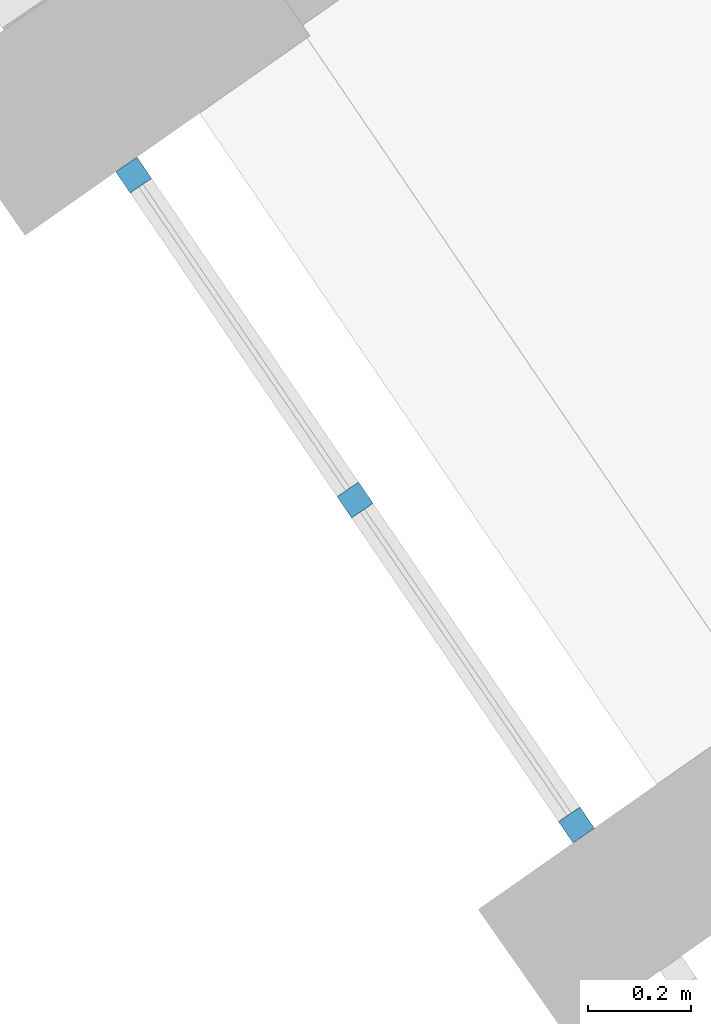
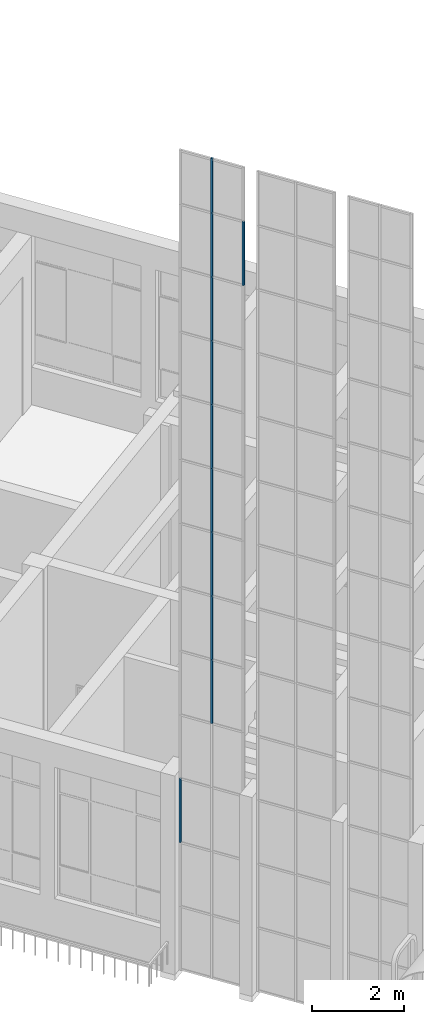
# One storey, part 18 of 157: 11 members, 1 element without a shape of its own.
"""IFC2X3 building model written with IfcOpenShell, lengths in millimetres."""

import ifcopenshell
import ifcopenshell.guid

model = None  # the IFC model being written
_history = None  # IfcOwnerHistory: only IFC2X3 demands one
_inside = {}  # id of a spatial element -> (the spatial element, [elements in it])
_under = {}  # id of a project, library or spatial element -> (it, [spatial elements below it])
_declared = {}  # id of a project -> (the project, [libraries it declares])
_typed = {}  # id of a type object -> (the type object, [elements of that type])
_made_of = {}  # id of a material, layer set ... -> (it, [elements and type objects made of it])


def new_model(schema):
    """Start an empty IFC model of exactly this schema.

    Asked for "IFC4X3", IfcOpenShell would pick the latest addendum, in which some entities
    have other attributes; the version numbers below select the first issue.
    IFC2X3 requires an IfcOwnerHistory on every rooted entity: one is made here for all.
    """
    global model, _history
    if schema == "IFC4X3":
        model = ifcopenshell.file(schema_version=(4, 3, 0, 0))
    else:
        model = ifcopenshell.file(schema=schema)
    _inside.clear()
    _under.clear()
    _declared.clear()
    _typed.clear()
    _made_of.clear()
    _history = None
    if model.schema == "IFC2X3":
        org = make("IfcOrganization", Name="unknown")
        user = make(
            "IfcPersonAndOrganization",
            ThePerson=make("IfcPerson", FamilyName="unknown"),
            TheOrganization=org,
        )
        app = make(
            "IfcApplication",
            ApplicationDeveloper=org,
            Version="unknown",
            ApplicationFullName="unknown",
            ApplicationIdentifier="unknown",
        )
        _history = make(
            "IfcOwnerHistory",
            OwningUser=user,
            OwningApplication=app,
            ChangeAction="ADDED",
            CreationDate=0,
        )
    return model


def make(cls, **values):
    """One entity of the class cls with the attributes given. An attribute that is None is left unset."""
    return model.create_entity(
        cls, **{name: value for name, value in values.items() if value is not None}
    )


def entity(cls, *values):
    """Any entity or typed value of the class cls, its attributes in the order of the schema. None: left unset."""
    e = model.create_entity(cls)
    for i, value in enumerate(values):
        if value is not None:
            e[i] = value
    return e


def rooted(cls, **values):
    """An entity with a GlobalId (a new one), such as an element, a storey or a relation."""
    return make(cls, GlobalId=ifcopenshell.guid.new(), OwnerHistory=_history, **values)


def si_unit(unit_type, name, prefix=None):
    """IfcSIUnit, for example si_unit("LENGTHUNIT", "METRE", prefix="MILLI")."""
    return make("IfcSIUnit", UnitType=unit_type, Prefix=prefix, Name=name)


def converted_unit(unit_type, name, factor, base, dimensions=None, offset=None):
    """IfcConversionBasedUnit, such as the inch: factor (a typed value) times the base unit."""
    return make(
        "IfcConversionBasedUnit"
        if offset is None
        else "IfcConversionBasedUnitWithOffset",
        ConversionOffset=offset,
        Dimensions=None
        if dimensions is None
        else entity("IfcDimensionalExponents", *dimensions),
        UnitType=unit_type,
        Name=name,
        ConversionFactor=make(
            "IfcMeasureWithUnit", ValueComponent=factor, UnitComponent=base
        ),
    )


def derived_unit(unit_type, elements):
    """IfcDerivedUnit: a product of units, each with its exponent."""
    return make(
        "IfcDerivedUnit",
        Elements=[
            make("IfcDerivedUnitElement", Unit=unit, Exponent=power)
            for unit, power in elements
        ],
        UnitType=unit_type,
    )


def assignment(units):
    """IfcUnitAssignment: the units of a project."""
    return None if units is None else make("IfcUnitAssignment", Units=units)


def point(xyz):
    """IfcCartesianPoint."""
    return None if xyz is None else make("IfcCartesianPoint", Coordinates=xyz)


def direction(xyz):
    """IfcDirection."""
    return None if xyz is None else make("IfcDirection", DirectionRatios=xyz)


def frame(location, z_axis=None, x_axis=None):
    """IfcAxis2Placement3D, a coordinate frame: its origin and axes. An axis left out is left unset."""
    return make(
        "IfcAxis2Placement3D",
        Location=point(location),
        Axis=direction(z_axis),
        RefDirection=direction(x_axis),
    )


def frame_2d(location, x_axis=None):
    """IfcAxis2Placement2D, a coordinate frame in the plane: its origin and x axis."""
    return make(
        "IfcAxis2Placement2D", Location=point(location), RefDirection=direction(x_axis)
    )


def origin():
    """The frame at (0, 0, 0) with its axes left unset."""
    return frame((0.0, 0.0, 0.0))


def origin_2d_with_axis():
    """The frame at (0, 0) in the plane with the x axis (1, 0) written out."""
    return frame_2d((0.0, 0.0), x_axis=(1.0, 0.0))


def place(relative_to, where):
    """IfcLocalPlacement: puts the frame where relative to a parent placement (None: the world)."""
    return make(
        "IfcLocalPlacement", PlacementRelTo=relative_to, RelativePlacement=where
    )


def context(
    kind, dimensions, precision=None, world=None, true_north=None, identifier=None
):
    """IfcGeometricRepresentationContext, for example the 3D "Model" context."""
    return make(
        "IfcGeometricRepresentationContext",
        ContextIdentifier=identifier,
        ContextType=kind,
        CoordinateSpaceDimension=dimensions,
        Precision=precision,
        WorldCoordinateSystem=world,
        TrueNorth=true_north,
    )


def subcontext(parent, identifier, kind, view, scale=None):
    """IfcGeometricRepresentationSubContext, for example "Body" below "Model"."""
    return make(
        "IfcGeometricRepresentationSubContext",
        ContextIdentifier=identifier,
        ContextType=kind,
        ParentContext=parent,
        TargetScale=scale,
        TargetView=view,
    )


def project(units=None, contexts=None):
    """IfcProject with its units and contexts."""
    return rooted(
        "IfcProject",
        Name="project",
        RepresentationContexts=contexts,
        UnitsInContext=assignment(units),
    )


def spatial(cls, under=None, at=None, **own):
    """A site, building, storey or space (cls), placed at a placement, below another one or the project."""
    s = rooted(cls, ObjectPlacement=at, **own)
    if under is not None:
        _under.setdefault(under.id(), (under, []))[1].append(s)
    return s


def profile(cls, at=None, kind="AREA", **sizes):
    """A parametric profile (cls). Its sizes go by their IFC names, for example OverallWidth=200.0."""
    return make(cls, ProfileType=kind, Position=at, **sizes)


def rectangle(**sizes):
    """IfcRectangleProfileDef."""
    return profile("IfcRectangleProfileDef", **sizes)


def extrude(swept, where, along, depth):
    """IfcExtrudedAreaSolid: the profile swept, set in the frame where, extruded along a direction by depth."""
    return make(
        "IfcExtrudedAreaSolid",
        SweptArea=swept,
        Position=where,
        ExtrudedDirection=direction(along),
        Depth=depth,
    )


def shape(context_of_items, identifier, shape_type, items):
    """IfcShapeRepresentation: the items that make up one representation, for example the "Body"."""
    return make(
        "IfcShapeRepresentation",
        ContextOfItems=context_of_items,
        RepresentationIdentifier=identifier,
        RepresentationType=shape_type,
        Items=items,
    )


def source(mapping_origin, context_of_items, identifier, shape_type, items):
    """IfcRepresentationMap: a shape defined once, which mapped items show again and again."""
    return make(
        "IfcRepresentationMap",
        MappingOrigin=mapping_origin,
        MappedRepresentation=shape(context_of_items, identifier, shape_type, items),
    )


def transform(
    local_origin,
    x_axis=None,
    y_axis=None,
    z_axis=None,
    scale=None,
    scale2=None,
    scale3=None,
    uniform=True,
):
    """IfcCartesianTransformationOperator3D, or its non-uniform kind. x_axis, y_axis, z_axis: its Axis1, 2, 3."""
    if uniform:
        return make(
            "IfcCartesianTransformationOperator3D",
            Axis1=direction(x_axis),
            Axis2=direction(y_axis),
            LocalOrigin=point(local_origin),
            Scale=scale,
            Axis3=direction(z_axis),
        )
    return make(
        "IfcCartesianTransformationOperator3DnonUniform",
        Axis1=direction(x_axis),
        Axis2=direction(y_axis),
        LocalOrigin=point(local_origin),
        Scale=scale,
        Axis3=direction(z_axis),
        Scale2=scale2,
        Scale3=scale3,
    )


def mapped(mapping_source, mapping_target):
    """IfcMappedItem: shows the shape of a source again, moved by a transform."""
    return make(
        "IfcMappedItem", MappingSource=mapping_source, MappingTarget=mapping_target
    )


def material(Name=None, Category=None):
    """IfcMaterial."""
    return make("IfcMaterial", Name=Name, Category=Category)


def made_of(thing, what):
    """Note that an element or type object is made of a material, layer set ...; save() writes the relation."""
    if what is not None:
        _made_of.setdefault(what.id(), (what, []))[1].append(thing)
    return thing


def type_object(cls, material=None, **own):
    """A type object (cls), such as IfcWallType, which elements share."""
    return made_of(rooted(cls, **own), material)


def type_shapes(of_type, sources):
    """Give a type object the sources (RepresentationMaps) that its elements show as mapped items."""
    of_type.RepresentationMaps = sources


def element(
    cls,
    number,
    at=None,
    inside=None,
    cuts=None,
    type_object=None,
    material=None,
    context=None,
    identifier="Body",
    shape_type=None,
    held_by="IfcProductDefinitionShape",
    body=None,
    shapes=None,
    **own,
):
    """One element of the class cls, such as IfcWall. Its Tag is "e" and its number.

    at: its placement. inside: the storey or other place that contains it. cuts: it is an
    opening in that element (IfcRelVoidsElement). A single representation is given by context,
    identifier, shape_type and body (its items); several are given by shapes. held_by: the class
    of the entity that holds the representations. save() writes the other relations.
    """
    e = rooted(cls, Tag="e%d" % number, ObjectPlacement=at, **own)
    if body is not None:
        shapes = [shape(context, identifier, shape_type, body)]
    if shapes is not None:
        e.Representation = make(held_by, Representations=shapes)
    if inside is not None:
        _inside.setdefault(inside.id(), (inside, []))[1].append(e)
    if cuts is not None:
        rooted(
            "IfcRelVoidsElement", RelatingBuildingElement=cuts, RelatedOpeningElement=e
        )
    if type_object is not None:
        _typed.setdefault(type_object.id(), (type_object, []))[1].append(e)
    return made_of(e, material)


def aggregate(whole, parts):
    """IfcRelAggregates: a whole, such as a stair, and the parts it consists of."""
    return rooted("IfcRelAggregates", RelatingObject=whole, RelatedObjects=parts)


def save(model, path):
    """Write the relations noted so far, then the file.

    IfcRelAggregates (storeys below a building ...), IfcRelContainedInSpatialStructure (elements
    in a storey), IfcRelDefinesByType, IfcRelAssociatesMaterial and IfcRelDeclares: one each for
    every whole, place, type object, material and project.
    """
    for whole, parts in _under.values():
        aggregate(whole, parts)
    for where, things in _inside.values():
        rooted(
            "IfcRelContainedInSpatialStructure",
            RelatedElements=things,
            RelatingStructure=where,
        )
    for kind, things in _typed.values():
        rooted("IfcRelDefinesByType", RelatedObjects=things, RelatingType=kind)
    for what, things in _made_of.values():
        rooted("IfcRelAssociatesMaterial", RelatedObjects=things, RelatingMaterial=what)
    for by, libraries in _declared.values():
        rooted("IfcRelDeclares", RelatingContext=by, RelatedDefinitions=libraries)
    model.write(path)


model = new_model("IFC2X3")

# Units and contexts
model_context = context("Model", 3, precision=0.01, world=origin(), true_north=direction((6.123031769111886e-17, 1.0)))
body_context = subcontext(model_context, "Body", "Model", "MODEL_VIEW")
ifc_project = project(units=[si_unit("LENGTHUNIT", "METRE", prefix="MILLI"), si_unit("AREAUNIT", "SQUARE_METRE"), si_unit("VOLUMEUNIT", "CUBIC_METRE"), converted_unit("PLANEANGLEUNIT", "DEGREE", entity("IfcRatioMeasure", 0.017453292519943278), si_unit("PLANEANGLEUNIT", "RADIAN"), dimensions=[0, 0, 0, 0, 0, 0, 0]), si_unit("MASSUNIT", "GRAM", prefix="KILO"), derived_unit("MASSDENSITYUNIT", [(si_unit("MASSUNIT", "GRAM", prefix="KILO"), 1), (si_unit("LENGTHUNIT", "METRE"), -3)]), derived_unit("MOMENTOFINERTIAUNIT", [(si_unit("LENGTHUNIT", "METRE"), 4)]), si_unit("TIMEUNIT", "SECOND"), si_unit("FREQUENCYUNIT", "HERTZ"), si_unit("THERMODYNAMICTEMPERATUREUNIT", "DEGREE_CELSIUS"), derived_unit("THERMALTRANSMITTANCEUNIT", [(si_unit("MASSUNIT", "GRAM", prefix="KILO"), 1), (si_unit("THERMODYNAMICTEMPERATUREUNIT", "KELVIN"), -1), (si_unit("TIMEUNIT", "SECOND"), -3)]), derived_unit("THERMALCONDUCTANCEUNIT", [(si_unit("MASSUNIT", "GRAM", prefix="KILO"), 1), (si_unit("LENGTHUNIT", "METRE"), 1), (si_unit("THERMODYNAMICTEMPERATUREUNIT", "KELVIN"), -1), (si_unit("TIMEUNIT", "SECOND"), -3)]), derived_unit("VOLUMETRICFLOWRATEUNIT", [(si_unit("LENGTHUNIT", "METRE"), 3), (si_unit("TIMEUNIT", "SECOND"), -1)]), derived_unit("MASSFLOWRATEUNIT", [(si_unit("MASSUNIT", "GRAM", prefix="KILO"), 1), (si_unit("TIMEUNIT", "SECOND"), -1)]), derived_unit("ROTATIONALFREQUENCYUNIT", [(si_unit("TIMEUNIT", "SECOND"), -1)]), si_unit("ELECTRICCURRENTUNIT", "AMPERE"), si_unit("ELECTRICVOLTAGEUNIT", "VOLT"), si_unit("POWERUNIT", "WATT"), converted_unit("FORCEUNIT", "KIP", entity("IfcRatioMeasure", 2.088543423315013e-05), si_unit("FORCEUNIT", "NEWTON"), dimensions=[1, 1, -2, 0, 0, 0, 0]), si_unit("ILLUMINANCEUNIT", "LUX"), si_unit("LUMINOUSFLUXUNIT", "LUMEN"), si_unit("LUMINOUSINTENSITYUNIT", "CANDELA"), derived_unit("USERDEFINED", [(si_unit("MASSUNIT", "GRAM", prefix="KILO"), -1), (si_unit("LENGTHUNIT", "METRE"), -2), (si_unit("TIMEUNIT", "SECOND"), 3), (si_unit("LUMINOUSFLUXUNIT", "LUMEN"), 1)]), derived_unit("USERDEFINED", [(si_unit("MASSUNIT", "GRAM", prefix="KILO"), 1), (si_unit("LENGTHUNIT", "METRE"), 3), (si_unit("TIMEUNIT", "SECOND"), -3), (si_unit("ELECTRICCURRENTUNIT", "AMPERE"), -2)]), derived_unit("USERDEFINED", [(si_unit("LENGTHUNIT", "METRE"), 2), (si_unit("TIMEUNIT", "SECOND"), -2)]), derived_unit("SOUNDPOWERUNIT", [(si_unit("MASSUNIT", "GRAM", prefix="KILO"), 1), (si_unit("LENGTHUNIT", "METRE"), 2), (si_unit("TIMEUNIT", "SECOND"), -3)]), derived_unit("SOUNDPRESSUREUNIT", [(si_unit("MASSUNIT", "GRAM", prefix="KILO"), 1), (si_unit("LENGTHUNIT", "METRE"), -1), (si_unit("TIMEUNIT", "SECOND"), -2)]), derived_unit("LINEARVELOCITYUNIT", [(si_unit("LENGTHUNIT", "METRE"), 1), (si_unit("TIMEUNIT", "SECOND"), -1)]), si_unit("PRESSUREUNIT", "PASCAL"), derived_unit("USERDEFINED", [(si_unit("LENGTHUNIT", "METRE"), -2), (si_unit("MASSUNIT", "GRAM", prefix="KILO"), 1), (si_unit("TIMEUNIT", "SECOND"), -2)]), derived_unit("LINEARFORCEUNIT", [(si_unit("MASSUNIT", "GRAM", prefix="KILO"), 1), (si_unit("LENGTHUNIT", "METRE"), 1), (si_unit("TIMEUNIT", "SECOND"), -2), (si_unit("LENGTHUNIT", "METRE"), -1)]), derived_unit("PLANARFORCEUNIT", [(si_unit("MASSUNIT", "GRAM", prefix="KILO"), 1), (si_unit("LENGTHUNIT", "METRE"), 1), (si_unit("TIMEUNIT", "SECOND"), -2), (si_unit("LENGTHUNIT", "METRE"), -2)]), derived_unit("SPECIFICHEATCAPACITYUNIT", [(si_unit("LENGTHUNIT", "METRE"), 2), (si_unit("TIMEUNIT", "SECOND"), -2), (si_unit("THERMODYNAMICTEMPERATUREUNIT", "KELVIN"), -1)]), derived_unit("VAPORPERMEABILITYUNIT", [(si_unit("TIMEUNIT", "SECOND"), 1), (si_unit("LENGTHUNIT", "METRE"), -1)]), derived_unit("DYNAMICVISCOSITYUNIT", [(si_unit("MASSUNIT", "GRAM", prefix="KILO"), 1), (si_unit("LENGTHUNIT", "METRE"), -1), (si_unit("TIMEUNIT", "SECOND"), -1)]), derived_unit("THERMALEXPANSIONCOEFFICIENTUNIT", [(si_unit("THERMODYNAMICTEMPERATUREUNIT", "KELVIN"), -1)])], contexts=[model_context])

# Site, building, storey
site_placement = place(None, frame((0.0, 0.0, 0.0), z_axis=(0.0, 0.0, 1.0), x_axis=(0.8191520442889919, 0.5735764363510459, 0.0)))
site = spatial("IfcSite", under=ifc_project, at=site_placement, Name="Default", CompositionType="ELEMENT")
building_placement = place(site_placement, origin())
building = spatial("IfcBuilding", under=site, at=building_placement, CompositionType="ELEMENT")
storey_placement = place(building_placement, origin())
storey = spatial("IfcBuildingStorey", under=building, at=storey_placement, Name="1.EG +0.00", CompositionType="ELEMENT", Elevation=-4.331468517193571e-12)

# Curtain wall, members
curtain_wall_type = type_object("IfcCurtainWallType", Name="Curtain Wall:Curtain_Wall_CJC", PredefinedType="NOTDEFINED")
curtain_wall_placement = place(storey_placement, origin())
curtain_wall = element("IfcCurtainWall", 1, at=curtain_wall_placement, inside=storey, type_object=curtain_wall_type, Name="Curtain Wall:Curtain_Wall_CJC", ObjectType="Curtain Wall:Curtain_Wall_CJC")
ifc_material = material(Name="Aluminium")
member_type_1 = type_object("IfcMemberType", Name="Rectangular Mullion:5x5", PredefinedType="MULLION", material=ifc_material)
shared_shape_1 = source(origin(), body_context, "Body", "SweptSolid", [
    extrude(rectangle(XDim=50.0, YDim=50.0, at=origin_2d_with_axis()), frame((-25.0, 0.0, -1700.0), z_axis=(0.0, 0.0, 1.0), x_axis=(0.0, -1.0, 0.0)), (0.0, 0.0, 1.0), 1700.0000000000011),
])
type_shapes(member_type_1, [shared_shape_1])
member_1_placement = place(curtain_wall_placement, frame((-223070.5851543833, 113945.23194626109, 20400.0), z_axis=(0.0, 0.0, 1.0), x_axis=(-0.01272958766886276, -0.999918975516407, 0.0)))
member_1 = element("IfcMember", 2, at=member_1_placement, type_object=member_type_1, material=ifc_material, Name="Rectangular Mullion:5x5", ObjectType="Rectangular Mullion:5x5", context=body_context, shape_type="MappedRepresentation", body=[
    mapped(shared_shape_1, transform((0.0, 0.0, 0.0), scale=1.0)),
])
member_type_2 = type_object("IfcMemberType", Name="Rectangular Mullion:5x5", PredefinedType="MULLION", material=ifc_material)
shared_shape_2 = source(origin(), body_context, "Body", "SweptSolid", [
    extrude(rectangle(XDim=50.0, YDim=50.0, at=origin_2d_with_axis()), frame((-25.0, 0.0, -1700.0), z_axis=(0.0, 0.0, 1.0), x_axis=(0.0, -1.0, 0.0)), (0.0, 0.0, 1.0), 1700.0),
])
type_shapes(member_type_2, [shared_shape_2])
member_2_placement = place(curtain_wall_placement, frame((-223050.52008220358, 115521.3589143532, 3400.0), z_axis=(0.0, 0.0, -1.0), x_axis=(0.01272958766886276, 0.999918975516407, 0.0)))
member_2 = element("IfcMember", 3, at=member_2_placement, type_object=member_type_2, material=ifc_material, Name="Rectangular Mullion:5x5", ObjectType="Rectangular Mullion:5x5", context=body_context, shape_type="MappedRepresentation", body=[
    mapped(shared_shape_2, transform((0.0, 0.0, 0.0), scale=1.0)),
])
member_type_3 = type_object("IfcMemberType", Name="Rectangular Mullion:5x5", PredefinedType="MULLION", material=ifc_material)
shared_shape_3 = source(origin(), body_context, "Body", "SweptSolid", [
    extrude(rectangle(XDim=50.0, YDim=50.0, at=origin_2d_with_axis()), frame((0.0, 0.0, -1700.0), z_axis=(0.0, 0.0, 1.0), x_axis=(0.0, -1.0, 0.0)), (0.0, 0.0, 1.0), 1700.0),
])
type_shapes(member_type_3, [shared_shape_3])
member_3_placement = place(curtain_wall_placement, frame((-223060.55261829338, 114733.29543030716, 6800.0), z_axis=(0.0, 0.0, -1.0), x_axis=(0.01272958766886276, 0.999918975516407, 0.0)))
member_3 = element("IfcMember", 4, at=member_3_placement, type_object=member_type_3, material=ifc_material, Name="Rectangular Mullion:5x5", ObjectType="Rectangular Mullion:5x5", context=body_context, shape_type="MappedRepresentation", body=[
    mapped(shared_shape_3, transform((0.0, 0.0, 0.0), scale=1.0)),
])
member_4_placement = place(curtain_wall_placement, frame((-223060.55261829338, 114733.29543030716, 8500.0), z_axis=(0.0, 0.0, -1.0), x_axis=(0.01272958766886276, 0.999918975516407, 0.0)))
member_4 = element("IfcMember", 5, at=member_4_placement, type_object=member_type_3, material=ifc_material, Name="Rectangular Mullion:5x5", ObjectType="Rectangular Mullion:5x5", context=body_context, shape_type="MappedRepresentation", body=[
    mapped(shared_shape_3, transform((0.0, 0.0, 0.0), scale=1.0)),
])
member_5_placement = place(curtain_wall_placement, frame((-223060.55261829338, 114733.29543030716, 10200.0), z_axis=(0.0, 0.0, -1.0), x_axis=(0.01272958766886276, 0.999918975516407, 0.0)))
member_5 = element("IfcMember", 6, at=member_5_placement, type_object=member_type_3, material=ifc_material, Name="Rectangular Mullion:5x5", ObjectType="Rectangular Mullion:5x5", context=body_context, shape_type="MappedRepresentation", body=[
    mapped(shared_shape_3, transform((0.0, 0.0, 0.0), scale=1.0)),
])
member_6_placement = place(curtain_wall_placement, frame((-223060.55261829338, 114733.29543030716, 11900.0), z_axis=(0.0, 0.0, -1.0), x_axis=(0.01272958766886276, 0.999918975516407, 0.0)))
member_6 = element("IfcMember", 7, at=member_6_placement, type_object=member_type_3, material=ifc_material, Name="Rectangular Mullion:5x5", ObjectType="Rectangular Mullion:5x5", context=body_context, shape_type="MappedRepresentation", body=[
    mapped(shared_shape_3, transform((0.0, 0.0, 0.0), scale=1.0)),
])
member_7_placement = place(curtain_wall_placement, frame((-223060.55261829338, 114733.29543030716, 13600.0), z_axis=(0.0, 0.0, -1.0), x_axis=(0.01272958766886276, 0.999918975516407, 0.0)))
member_7 = element("IfcMember", 8, at=member_7_placement, type_object=member_type_3, material=ifc_material, Name="Rectangular Mullion:5x5", ObjectType="Rectangular Mullion:5x5", context=body_context, shape_type="MappedRepresentation", body=[
    mapped(shared_shape_3, transform((0.0, 0.0, 0.0), scale=1.0)),
])
member_8_placement = place(curtain_wall_placement, frame((-223060.55261829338, 114733.29543030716, 15300.0), z_axis=(0.0, 0.0, -1.0), x_axis=(0.01272958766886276, 0.999918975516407, 0.0)))
member_8 = element("IfcMember", 9, at=member_8_placement, type_object=member_type_3, material=ifc_material, Name="Rectangular Mullion:5x5", ObjectType="Rectangular Mullion:5x5", context=body_context, shape_type="MappedRepresentation", body=[
    mapped(shared_shape_3, transform((0.0, 0.0, 0.0), scale=1.0)),
])
member_9_placement = place(curtain_wall_placement, frame((-223060.55261829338, 114733.29543030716, 17000.0), z_axis=(0.0, 0.0, -1.0), x_axis=(0.01272958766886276, 0.999918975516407, 0.0)))
member_9 = element("IfcMember", 10, at=member_9_placement, type_object=member_type_3, material=ifc_material, Name="Rectangular Mullion:5x5", ObjectType="Rectangular Mullion:5x5", context=body_context, shape_type="MappedRepresentation", body=[
    mapped(shared_shape_3, transform((0.0, 0.0, 0.0), scale=1.0)),
])
member_10_placement = place(curtain_wall_placement, frame((-223060.55261829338, 114733.29543030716, 18700.0), z_axis=(0.0, 0.0, -1.0), x_axis=(0.01272958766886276, 0.999918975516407, 0.0)))
member_10 = element("IfcMember", 11, at=member_10_placement, type_object=member_type_3, material=ifc_material, Name="Rectangular Mullion:5x5", ObjectType="Rectangular Mullion:5x5", context=body_context, shape_type="MappedRepresentation", body=[
    mapped(shared_shape_3, transform((0.0, 0.0, 0.0), scale=1.0)),
])
member_type_4 = type_object("IfcMemberType", Name="Rectangular Mullion:5x5", PredefinedType="MULLION", material=ifc_material)
shared_shape_4 = source(origin(), body_context, "Body", "SweptSolid", [
    extrude(rectangle(XDim=50.0, YDim=50.0, at=origin_2d_with_axis()), frame((0.0, 0.0, -1450.0), z_axis=(0.0, 0.0, 1.0), x_axis=(0.0, -1.0, 0.0)), (0.0, 0.0, 1.0), 1450.0000000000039),
])
type_shapes(member_type_4, [shared_shape_4])
member_11_placement = place(curtain_wall_placement, frame((-223060.55261829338, 114733.29543030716, 20400.0), z_axis=(0.0, 0.0, -1.0), x_axis=(0.01272958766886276, 0.999918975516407, 0.0)))
member_11 = element("IfcMember", 12, at=member_11_placement, type_object=member_type_4, material=ifc_material, Name="Rectangular Mullion:5x5", ObjectType="Rectangular Mullion:5x5", context=body_context, shape_type="MappedRepresentation", body=[
    mapped(shared_shape_4, transform((0.0, 0.0, 0.0), scale=1.0)),
])
aggregate(curtain_wall, [member_2, member_1, member_3, member_4, member_5, member_6, member_7, member_8, member_9, member_10, member_11])

save(model, "model.ifc")
